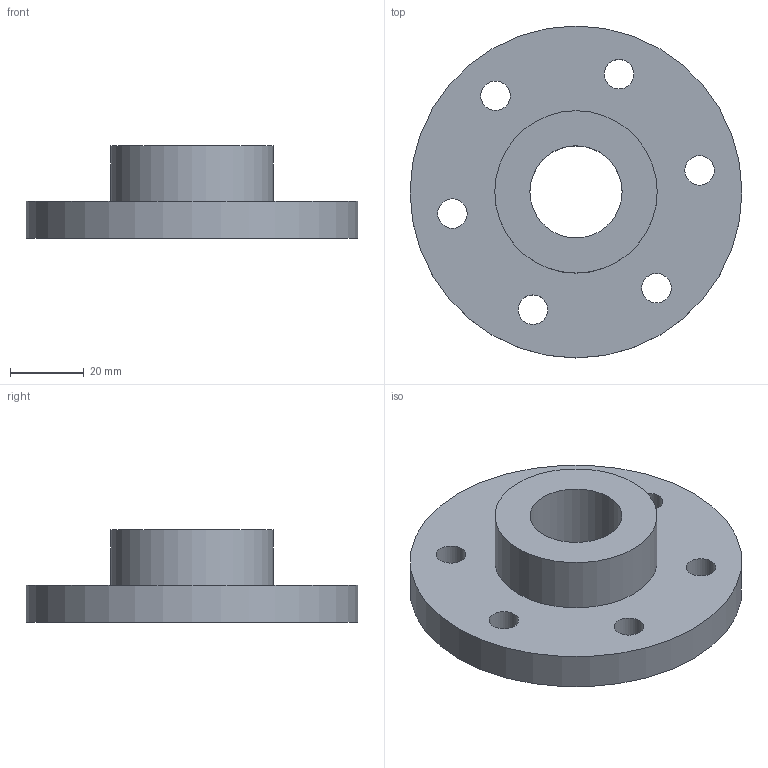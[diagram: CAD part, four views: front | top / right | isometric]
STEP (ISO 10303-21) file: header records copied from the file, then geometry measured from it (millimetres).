
FILE_DESCRIPTION(('Open CASCADE Model'),'2;1');
FILE_NAME('Open CASCADE Shape Model','2026-11-12T11:21:55',('Author'),( 'Open CASCADE'),'Open CASCADE STEP processor 7.9','Open CASCADE 7.9' ,'Unknown');
FILE_SCHEMA(('AUTOMOTIVE_DESIGN { 1 0 10303 214 1 1 1 1 }'));
Length unit declared in the file: millimetre
Products named in the file (1): Open CASCADE STEP translator 7.9 1
Bounding box: 89.99 x 89.99 x 25 mm (x, y, z)
Volume: 71139.6 mm3; surface area: 19508.6 mm2
Topology: 1 solids, 1 shells, 12 faces, 27 edges, 18 vertices
Faces by surface type: cylinder 9, plane 3
Full cylindrical faces by diameter (mm): 7.998 x1, 8 x1, 8.004 x3, 8.008 x1, 24.998 x1, 44.016 x1, 89.99 x1
Entity records: 780 total; most frequent: CARTESIAN_POINT 196, DIRECTION 111, ORIENTED_EDGE 54, PCURVE 54, DEFINITIONAL_REPRESENTATION 54, LINE 45, VECTOR 45, AXIS2_PLACEMENT_3D 31
